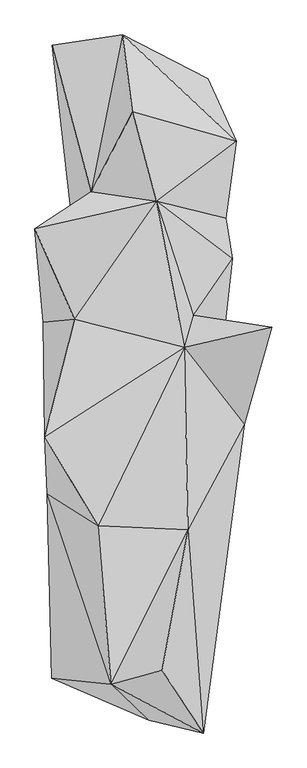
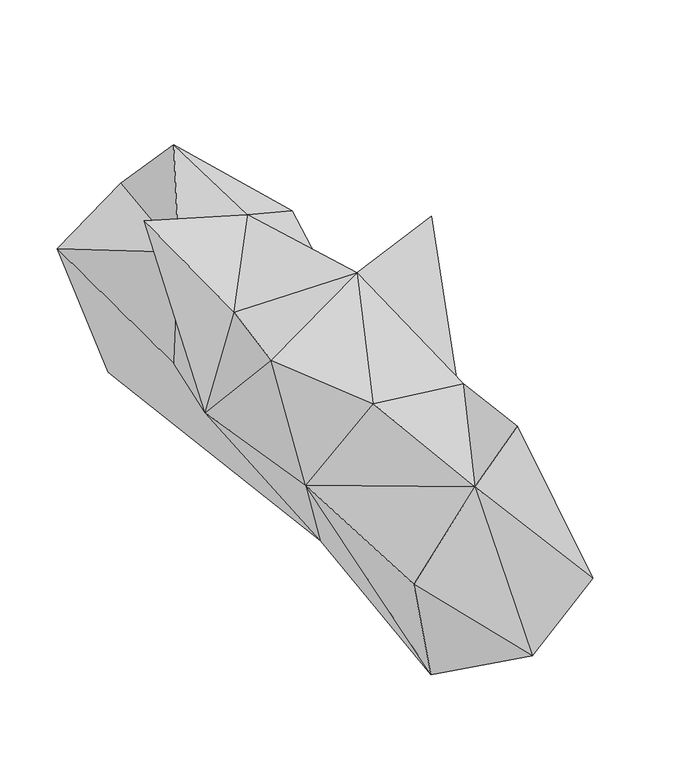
"""IFC4 building model written with IfcOpenShell, lengths in millimetres: geographic element geometry, Enscape AssetDefinition - Potted Plant 250 Snake Plant : Enscape AssetDefinition - Potted Plant 250 Snake Plant 2."""

from ifc_helpers import new_model, si_unit, origin, place, context, project, spatial, triangles, source, transform, mapped, element, save


def geographic_element_ddda1ed9(model_context):
    return source(origin(), model_context, "Body", "Tessellation", [
        triangles([(-21.7030108, 785.476692, 634.880579), (-49.3138686, 1001.8177019, 396.5782642), (190.5079392, 878.1977766, 81.6801797), (39.8423264, 769.3699717, 0.0), (-137.7670451, 560.8327732, 485.1646448), (241.2683583, 486.4154769, 333.3084343), (270.947724, 703.5625786, 381.3343909), (198.5375726, 521.8231267, 116.4983487), (103.2789612, -100.7935206, 0.0), (46.3686314, 534.051123, 550.9257108), (150.0274704, 215.1272395, 402.9482243), (259.4597988, 372.7360785, 329.7400838), (214.5354152, -32.1694231, 206.1792028), (370.3560639, 180.8418323, 647.3899899), (292.9646032, -91.1494055, 297.9065436), (134.880884, -387.7391235, 564.0177169), (177.4761765, -958.7278902, 304.2127539), (197.3156814, -715.8102322, 0.0), (24.4629372, -923.0294878, 100.9973509), (62.0259833, -782.4596523, 700.0000053), (-118.636336, -376.8268172, 586.4341902), (-248.6980647, -804.7521143, 342.4765157), (-81.8400082, -821.1646299, 591.1132287), (-111.777634, -102.1161507, 0.0), (-4.733455, -699.2588442, 0.0), (-190.0539335, -788.7948761, 37.4090016), (-260.8009778, -286.966441, 333.8735888), (124.1006009, 124.8128848, 594.8645259), (-267.7118023, -126.9566584, 619.5521542), (-184.502837, 202.7336283, 536.511111), (-272.4406016, 195.5691673, 266.1424396), (-192.4641061, 489.4244139, 209.8575575), (-296.0175419, 457.2584267, 698.3878218), (-203.3694725, 796.9241037, 0.0), (-247.5966239, 973.3416784, 284.1010999)], [[4, 9, 24], [34, 4, 24], [4, 34, 35], [35, 34, 32], [24, 32, 34], [5, 35, 32], [5, 33, 10], [28, 10, 30], [33, 30, 10], [31, 33, 5], [24, 31, 32], [31, 5, 32], [30, 33, 31], [29, 30, 31], [28, 30, 29], [28, 29, 21], [27, 21, 29], [27, 29, 31], [27, 31, 24], [27, 26, 22], [27, 24, 26], [24, 25, 26], [24, 9, 25], [22, 26, 19], [26, 25, 19], [21, 27, 23], [22, 19, 23], [27, 22, 23], [16, 23, 20], [28, 21, 16], [16, 21, 23], [17, 16, 20], [17, 23, 19], [20, 23, 17], [18, 25, 9], [19, 25, 18], [17, 19, 18], [18, 15, 17], [15, 28, 16], [15, 16, 17], [28, 15, 14], [9, 15, 18], [15, 9, 13], [15, 13, 11], [14, 15, 11], [10, 28, 11], [11, 28, 14], [12, 11, 13], [12, 13, 9], [12, 10, 11], [6, 10, 12], [4, 8, 9], [6, 12, 8], [8, 12, 9], [8, 4, 3], [7, 10, 6], [7, 6, 8], [8, 3, 7], [1, 10, 7], [5, 10, 1], [2, 7, 3], [4, 35, 2], [5, 2, 35], [5, 1, 2], [2, 3, 4], [2, 1, 7]]),
    ])


if __name__ == "__main__":
    model = new_model("IFC4")
    model_context = context("Model", 3, world=origin())
    ifc_project = project(units=[si_unit("LENGTHUNIT", "METRE", prefix="MILLI")], contexts=[model_context])
    site = spatial("IfcSite", under=ifc_project)
    building = spatial("IfcBuilding", under=site)
    placement = place(None, origin())
    geographic_element_shape = geographic_element_ddda1ed9(model_context)
    element("IfcGeographicElement", 1, ObjectType="Enscape AssetDefinition - Potted Plant 250 Snake Plant : Enscape AssetDefinition - Potted Plant 250 Snake Plant 2", at=placement, inside=building, context=model_context, shape_type="MappedRepresentation", body=[
        mapped(geographic_element_shape, transform((0.0, 0.0, 0.0), x_axis=(1.0, 0.0, 0.0), y_axis=(0.0, 1.0, 0.0), z_axis=(0.0, 0.0, 1.0))),
    ])
    save(model, "model.ifc")
